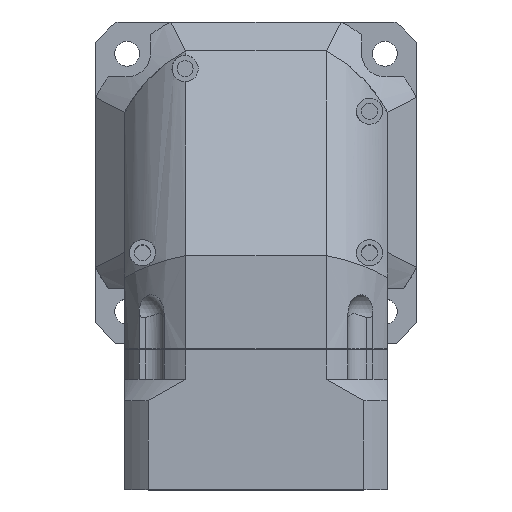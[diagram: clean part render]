
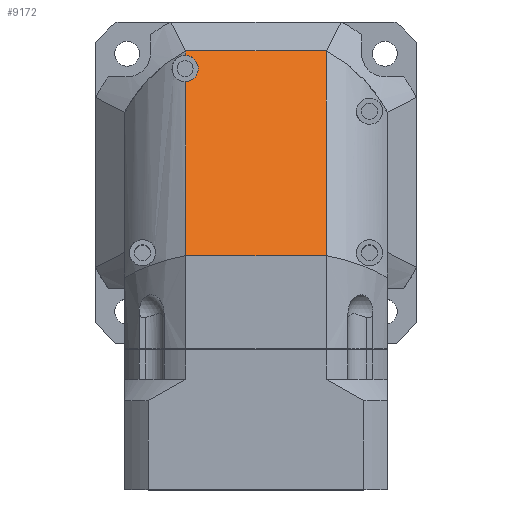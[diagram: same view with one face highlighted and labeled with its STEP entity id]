
A CAD part, top view. The second image highlights one B-rep face of the part: STEP entity #9172.
In plain terms, the highlighted planar face has unit normal (0, 0.643, 0.766) as drawn and (-0.766, -0.643, 0) by its records, which use the part's own axes.
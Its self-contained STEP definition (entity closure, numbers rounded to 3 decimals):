
#4168=DIRECTION('',(0.,0.,-1.));
#4169=VECTOR('',#4168,96.);
#4170=CARTESIAN_POINT('',(28.,-90.,48.));
#4171=LINE('',#4170,#4169);
#4533=CARTESIAN_POINT('',(28.,-90.,48.));
#5230=DIRECTION('',(0.,0.,1.));
#5231=VECTOR('',#5230,96.);
#5232=CARTESIAN_POINT('',(-90.,50.627,-48.));
#5233=LINE('',#5232,#5231);
#5234=CARTESIAN_POINT('',(10.236,-68.83,48.));
#5235=CARTESIAN_POINT('',(10.256,-68.853,47.661));
#5236=CARTESIAN_POINT('',(10.295,-68.9,47.326));
#5237=CARTESIAN_POINT('',(10.373,-68.993,46.768));
#5238=CARTESIAN_POINT('',(10.472,-69.11,46.292));
#5239=CARTESIAN_POINT('',(10.589,-69.251,45.821));
#5240=CARTESIAN_POINT('',(10.746,-69.438,45.296));
#5241=CARTESIAN_POINT('',(10.942,-69.672,44.756));
#5242=CARTESIAN_POINT('',(11.178,-69.952,44.217));
#5243=CARTESIAN_POINT('',(11.413,-70.233,43.752));
#5244=CARTESIAN_POINT('',(11.727,-70.607,43.206));
#5245=CARTESIAN_POINT('',(12.12,-71.074,42.629));
#5246=CARTESIAN_POINT('',(12.59,-71.636,42.056));
#5247=CARTESIAN_POINT('',(13.061,-72.197,41.572));
#5248=CARTESIAN_POINT('',(13.532,-72.758,41.16));
#5249=CARTESIAN_POINT('',(14.16,-73.506,40.694));
#5250=CARTESIAN_POINT('',(14.945,-74.441,40.245));
#5251=CARTESIAN_POINT('',(15.887,-75.564,39.879));
#5252=CARTESIAN_POINT('',(16.828,-76.686,39.667));
#5253=CARTESIAN_POINT('',(17.77,-77.808,39.597));
#5254=CARTESIAN_POINT('',(18.712,-78.931,39.667));
#5255=CARTESIAN_POINT('',(19.654,-80.053,39.879));
#5256=CARTESIAN_POINT('',(20.595,-81.175,40.245));
#5257=CARTESIAN_POINT('',(21.38,-82.111,40.694));
#5258=CARTESIAN_POINT('',(22.008,-82.859,41.16));
#5259=CARTESIAN_POINT('',(22.479,-83.42,41.572));
#5260=CARTESIAN_POINT('',(22.95,-83.981,42.056));
#5261=CARTESIAN_POINT('',(23.421,-84.542,42.629));
#5262=CARTESIAN_POINT('',(23.813,-85.01,43.206));
#5263=CARTESIAN_POINT('',(24.127,-85.384,43.752));
#5264=CARTESIAN_POINT('',(24.362,-85.665,44.217));
#5265=CARTESIAN_POINT('',(24.598,-85.945,44.756));
#5266=CARTESIAN_POINT('',(24.794,-86.179,45.296));
#5267=CARTESIAN_POINT('',(24.951,-86.366,45.821));
#5268=CARTESIAN_POINT('',(25.069,-86.506,46.292));
#5269=CARTESIAN_POINT('',(25.167,-86.623,46.768));
#5270=CARTESIAN_POINT('',(25.245,-86.717,47.326));
#5271=CARTESIAN_POINT('',(25.284,-86.764,47.661));
#5272=CARTESIAN_POINT('',(25.304,-86.787,48.));
#5274=DIRECTION('',(0.643,-0.766,0.));
#5275=VECTOR('',#5274,4.194);
#5276=CARTESIAN_POINT('',(25.304,-86.787,48.));
#5277=LINE('',#5276,#5275);
#5278=DIRECTION('',(-0.643,0.766,0.));
#5279=VECTOR('',#5278,183.575);
#5280=CARTESIAN_POINT('',(28.,-90.,-48.));
#5281=LINE('',#5280,#5279);
#5282=DIRECTION('',(0.643,-0.766,0.));
#5283=VECTOR('',#5282,155.94);
#5284=CARTESIAN_POINT('',(-90.,50.627,48.));
#5285=LINE('',#5284,#5283);
#5356=CARTESIAN_POINT('',(-90.,50.627,48.));
#7579=VERTEX_POINT('',#5234);
#7580=VERTEX_POINT('',#5272);
#7621=VERTEX_POINT('',#5356);
#7622=VERTEX_POINT('',#4533);
#7627=CARTESIAN_POINT('',(28.,-90.,-48.));
#7628=CARTESIAN_POINT('',(-90.,50.627,-48.));
#7629=VERTEX_POINT('',#7627);
#7630=VERTEX_POINT('',#7628);
#9155=CARTESIAN_POINT('',(28.,-90.,129.));
#9156=DIRECTION('',(0.766,0.643,0.));
#9157=DIRECTION('',(-0.643,0.766,0.));
#9158=AXIS2_PLACEMENT_3D('',#9155,#9156,#9157);
#9159=PLANE('',#9158);
#9161=ORIENTED_EDGE('',*,*,#9160,.T.);
#9163=ORIENTED_EDGE('',*,*,#9162,.T.);
#9164=ORIENTED_EDGE('',*,*,#7710,.T.);
#9166=ORIENTED_EDGE('',*,*,#9165,.T.);
#9167=ORIENTED_EDGE('',*,*,#9150,.T.);
#9169=ORIENTED_EDGE('',*,*,#9168,.T.);
#9170=EDGE_LOOP('',(#9161,#9163,#9164,#9166,#9167,#9169));
#9171=FACE_OUTER_BOUND('',#9170,.F.);
#9172=ADVANCED_FACE('',(#9171),#9159,.F.);
#5273=B_SPLINE_CURVE_WITH_KNOTS('',3,(#5234,#5235,#5236,#5237,#5238,#5239,#5240,
#5241,#5242,#5243,#5244,#5245,#5246,#5247,#5248,#5249,#5250,#5251,#5252,#5253,
#5254,#5255,#5256,#5257,#5258,#5259,#5260,#5261,#5262,#5263,#5264,#5265,#5266,
#5267,#5268,#5269,#5270,#5271,#5272),.UNSPECIFIED.,.F.,.F.,(4,1,1,1,1,1,1,1,1,1,
1,1,1,1,1,1,1,1,1,1,1,1,1,1,1,1,1,1,1,1,1,1,1,1,1,1,4),(0.,0.004,
0.008,0.016,0.023,0.031,0.047,0.063,0.078,0.094,
0.125,0.156,0.188,0.219,0.25,0.313,0.375,0.438,0.5,
0.563,0.625,0.688,0.75,0.781,0.813,0.844,0.875,0.906,
0.922,0.938,0.953,0.969,0.977,0.984,0.992,
0.996,1.),.UNSPECIFIED.);
#7710=EDGE_CURVE('',#7622,#7629,#4171,.T.);
#9150=EDGE_CURVE('',#7630,#7621,#5233,.T.);
#9160=EDGE_CURVE('',#7579,#7580,#5273,.T.);
#9162=EDGE_CURVE('',#7580,#7622,#5277,.T.);
#9165=EDGE_CURVE('',#7629,#7630,#5281,.T.);
#9168=EDGE_CURVE('',#7621,#7579,#5285,.T.);
